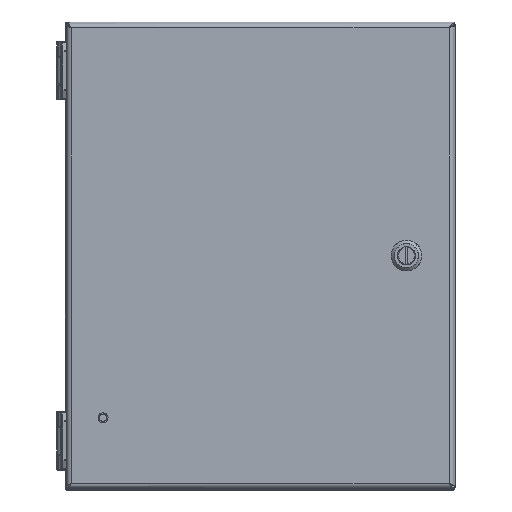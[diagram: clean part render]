
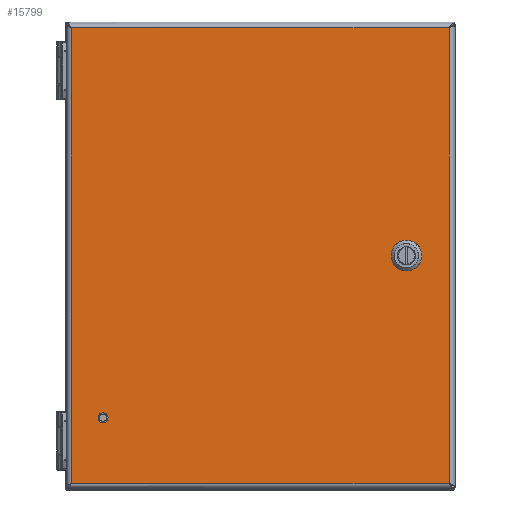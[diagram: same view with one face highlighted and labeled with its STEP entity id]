
A CAD part, top view. The second image highlights one B-rep face of the part: STEP entity #15799.
In plain terms, the highlighted planar face has unit normal (0, 0, 1).
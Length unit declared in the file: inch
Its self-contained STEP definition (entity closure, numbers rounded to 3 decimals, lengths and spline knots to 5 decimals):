
#13914=CARTESIAN_POINT('',(-4.035,-4.16,0.81));
#13915=DIRECTION('',(0.,0.,1.));
#13916=DIRECTION('',(-1.,0.,0.));
#13917=AXIS2_PLACEMENT_3D('',#13914,#13915,#13916);
#13922=CARTESIAN_POINT('',(-4.035,-4.16,0.81));
#13923=DIRECTION('',(0.,0.,1.));
#13924=DIRECTION('',(1.,0.,0.));
#13925=AXIS2_PLACEMENT_3D('',#13922,#13923,#13924);
#13930=DIRECTION('',(0.707,0.707,0.));
#13931=VECTOR('',#13930,0.30984);
#13932=CARTESIAN_POINT('',(3.44447,0.08845,0.81));
#13933=LINE('',#13932,#13931);
#13937=CARTESIAN_POINT('',(3.752,0.,0.81));
#13938=DIRECTION('',(0.,0.,1.));
#13939=DIRECTION('',(-0.961,0.276,0.));
#13940=AXIS2_PLACEMENT_3D('',#13937,#13938,#13939);
#13945=DIRECTION('',(-0.707,0.707,0.));
#13946=VECTOR('',#13945,0.30984);
#13947=CARTESIAN_POINT('',(3.66355,-0.30753,0.81));
#13948=LINE('',#13947,#13946);
#13952=CARTESIAN_POINT('',(3.752,0.,0.81));
#13953=DIRECTION('',(0.,0.,1.));
#13954=DIRECTION('',(-0.276,-0.961,0.));
#13955=AXIS2_PLACEMENT_3D('',#13952,#13953,#13954);
#13960=DIRECTION('',(-0.707,-0.707,0.));
#13961=VECTOR('',#13960,0.30984);
#13962=CARTESIAN_POINT('',(4.05953,-0.08845,0.81));
#13963=LINE('',#13962,#13961);
#13967=CARTESIAN_POINT('',(3.752,0.,0.81));
#13968=DIRECTION('',(0.,0.,1.));
#13969=DIRECTION('',(0.961,-0.276,0.));
#13970=AXIS2_PLACEMENT_3D('',#13967,#13968,#13969);
#13975=DIRECTION('',(0.707,-0.707,0.));
#13976=VECTOR('',#13975,0.30984);
#13977=CARTESIAN_POINT('',(3.84045,0.30753,0.81));
#13978=LINE('',#13977,#13976);
#13982=CARTESIAN_POINT('',(3.752,0.,0.81));
#13983=DIRECTION('',(0.,0.,1.));
#13984=DIRECTION('',(0.276,0.961,0.));
#13985=AXIS2_PLACEMENT_3D('',#13982,#13983,#13984);
#13990=DIRECTION('',(1.,0.,0.));
#13991=VECTOR('',#13990,9.7);
#13992=CARTESIAN_POINT('',(-4.85,-5.85,0.81));
#13993=LINE('',#13992,#13991);
#14082=DIRECTION('',(0.,1.,0.));
#14083=VECTOR('',#14082,11.7);
#14084=CARTESIAN_POINT('',(4.85,-5.85,0.81));
#14085=LINE('',#14084,#14083);
#14132=DIRECTION('',(-1.,0.,0.));
#14133=VECTOR('',#14132,9.7);
#14134=CARTESIAN_POINT('',(4.85,5.85,0.81));
#14135=LINE('',#14134,#14133);
#14231=DIRECTION('',(0.,-1.,0.));
#14232=VECTOR('',#14231,11.7);
#14233=CARTESIAN_POINT('',(-4.85,5.85,0.81));
#14234=LINE('',#14233,#14232);
#15528=CARTESIAN_POINT('',(-4.85,5.85,0.81));
#15529=CARTESIAN_POINT('',(-4.85,-5.85,0.81));
#15530=VERTEX_POINT('',#15528);
#15531=VERTEX_POINT('',#15529);
#15532=CARTESIAN_POINT('',(4.85,-5.85,0.81));
#15533=CARTESIAN_POINT('',(4.85,5.85,0.81));
#15534=VERTEX_POINT('',#15532);
#15535=VERTEX_POINT('',#15533);
#15600=CARTESIAN_POINT('',(-4.13305,-4.16,0.81));
#15601=CARTESIAN_POINT('',(-3.93695,-4.16,0.81));
#15602=VERTEX_POINT('',#15600);
#15603=VERTEX_POINT('',#15601);
#15608=CARTESIAN_POINT('',(3.44447,0.08845,0.81));
#15609=CARTESIAN_POINT('',(3.66355,0.30753,0.81));
#15610=VERTEX_POINT('',#15608);
#15611=VERTEX_POINT('',#15609);
#15612=CARTESIAN_POINT('',(3.84045,0.30753,0.81));
#15613=VERTEX_POINT('',#15612);
#15614=CARTESIAN_POINT('',(4.05953,0.08845,0.81));
#15615=VERTEX_POINT('',#15614);
#15616=CARTESIAN_POINT('',(4.05953,-0.08845,0.81));
#15617=VERTEX_POINT('',#15616);
#15618=CARTESIAN_POINT('',(3.84045,-0.30753,0.81));
#15619=VERTEX_POINT('',#15618);
#15620=CARTESIAN_POINT('',(3.66355,-0.30753,0.81));
#15621=VERTEX_POINT('',#15620);
#15622=CARTESIAN_POINT('',(3.44447,-0.08845,0.81));
#15623=VERTEX_POINT('',#15622);
#15760=CARTESIAN_POINT('',(0.,0.,0.81));
#15761=DIRECTION('',(0.,0.,1.));
#15762=DIRECTION('',(1.,0.,0.));
#15763=AXIS2_PLACEMENT_3D('',#15760,#15761,#15762);
#15764=PLANE('',#15763);
#15766=ORIENTED_EDGE('',*,*,#15765,.F.);
#15768=ORIENTED_EDGE('',*,*,#15767,.F.);
#15770=ORIENTED_EDGE('',*,*,#15769,.F.);
#15772=ORIENTED_EDGE('',*,*,#15771,.F.);
#15773=EDGE_LOOP('',(#15766,#15768,#15770,#15772));
#15774=FACE_OUTER_BOUND('',#15773,.F.);
#15776=ORIENTED_EDGE('',*,*,#15775,.T.);
#15778=ORIENTED_EDGE('',*,*,#15777,.T.);
#15779=EDGE_LOOP('',(#15776,#15778));
#15780=FACE_BOUND('',#15779,.F.);
#15782=ORIENTED_EDGE('',*,*,#15781,.F.);
#15784=ORIENTED_EDGE('',*,*,#15783,.T.);
#15786=ORIENTED_EDGE('',*,*,#15785,.F.);
#15788=ORIENTED_EDGE('',*,*,#15787,.T.);
#15790=ORIENTED_EDGE('',*,*,#15789,.F.);
#15792=ORIENTED_EDGE('',*,*,#15791,.T.);
#15794=ORIENTED_EDGE('',*,*,#15793,.F.);
#15796=ORIENTED_EDGE('',*,*,#15795,.T.);
#15797=EDGE_LOOP('',(#15782,#15784,#15786,#15788,#15790,#15792,#15794,#15796));
#15798=FACE_BOUND('',#15797,.F.);
#13918=CIRCLE('',#13917,0.09805);
#13926=CIRCLE('',#13925,0.09805);
#13941=CIRCLE('',#13940,0.32);
#13956=CIRCLE('',#13955,0.32);
#13971=CIRCLE('',#13970,0.32);
#13986=CIRCLE('',#13985,0.32);
#15765=EDGE_CURVE('',#15531,#15534,#13993,.T.);
#15767=EDGE_CURVE('',#15530,#15531,#14234,.T.);
#15769=EDGE_CURVE('',#15535,#15530,#14135,.T.);
#15771=EDGE_CURVE('',#15534,#15535,#14085,.T.);
#15775=EDGE_CURVE('',#15602,#15603,#13918,.T.);
#15777=EDGE_CURVE('',#15603,#15602,#13926,.T.);
#15781=EDGE_CURVE('',#15610,#15611,#13933,.T.);
#15783=EDGE_CURVE('',#15610,#15623,#13941,.T.);
#15785=EDGE_CURVE('',#15621,#15623,#13948,.T.);
#15787=EDGE_CURVE('',#15621,#15619,#13956,.T.);
#15789=EDGE_CURVE('',#15617,#15619,#13963,.T.);
#15791=EDGE_CURVE('',#15617,#15615,#13971,.T.);
#15793=EDGE_CURVE('',#15613,#15615,#13978,.T.);
#15795=EDGE_CURVE('',#15613,#15611,#13986,.T.);
#15799=ADVANCED_FACE('',(#15774,#15780,#15798),#15764,.T.);
